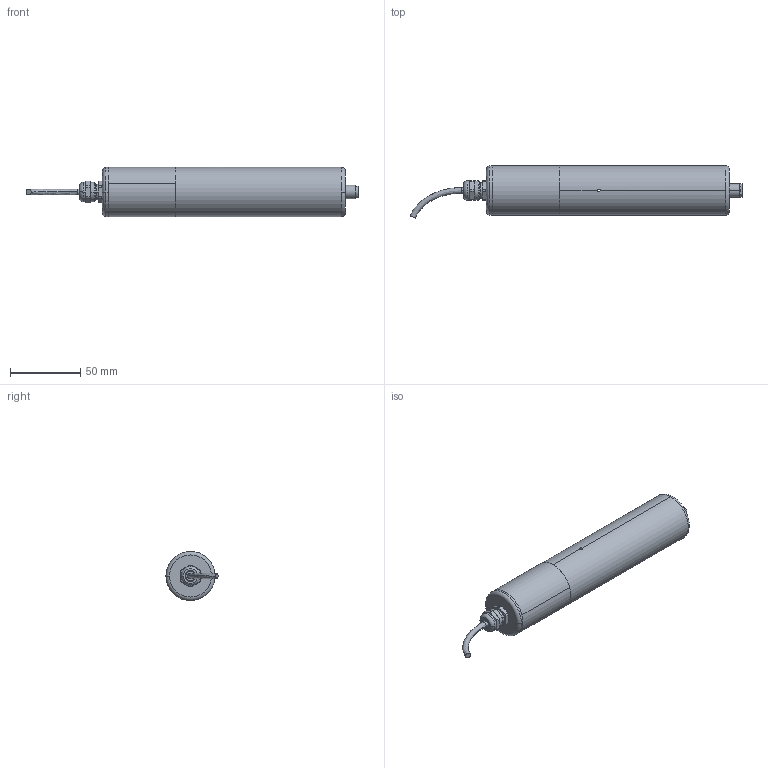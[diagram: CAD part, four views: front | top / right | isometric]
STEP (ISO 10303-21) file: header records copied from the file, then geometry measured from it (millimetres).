
FILE_DESCRIPTION (( 'STEP AP214' ), '1' );
FILE_NAME ('S114-5AL50.STEP', '2025-04-10T10:34:05', ( '' ), ( '' ), 'SwSTEP 2.0', 'SolidWorks 2023', '' );
FILE_SCHEMA (( 'AUTOMOTIVE_DESIGN' ));
Length unit declared in the file: millimetre
Products named in the file (1): S114-5AL50
Bounding box: 236.47 x 37.14 x 35 mm (x, y, z)
Surface area: 26377.7 mm2 (no closed solid volume)
Topology: 0 solids, 11 shells, 127 faces, 354 edges, 240 vertices
Faces by surface type: cylinder 58, plane 39, cone 16, torus 12, bspline 2
Entity records: 4640 total; most frequent: CARTESIAN_POINT 1420, DIRECTION 694, ORIENTED_EDGE 604, EDGE_CURVE 354, AXIS2_PLACEMENT_3D 288, VERTEX_POINT 240, CIRCLE 162, EDGE_LOOP 145
